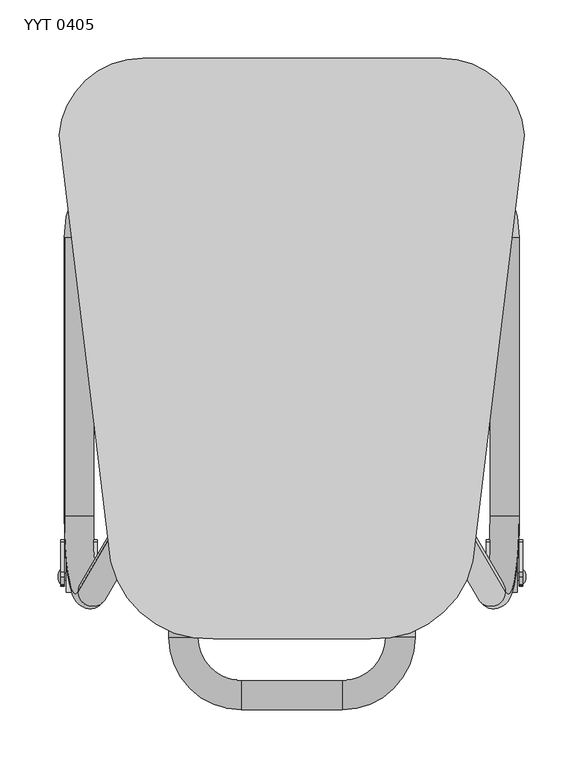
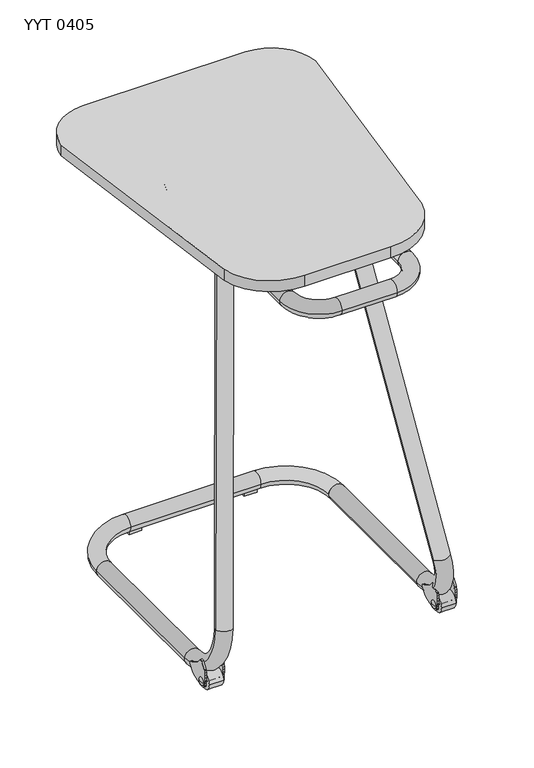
"""IFC4 building model written with IfcOpenShell, lengths in millimetres: furniture geometry, Mobiliário_Mobiliário de Escritório_LinhaYoung_Mesa Yes Tubular - YYT 0405_Marelli : YYT 0405."""

from ifc_helpers import new_model, si_unit, point, frame, frame_2d, origin, origin_with_axes, place, context, project, spatial, polyline, circle_curve, ellipse_curve, trimmed, segment, composite_curve, outline, extrude, source, transform, mapped, element, save
from ifc_brep_helpers import plane_surface, cylinder_surface, revolved_surface, advanced_brep


def yyt_0405_1cd9c240(model_context):
    return source(origin(), model_context, "Body", "SolidModel", [
        extrude(outline(composite_curve([segment(trimmed(circle_curve(frame_2d((328.4823851, 427.9938752)), 72.0061127), [point((328.4823851, 499.9999879))], [point((400.2446487, 433.9148377))], False, "CARTESIAN"), True, "CONTINUOUS"), segment(trimmed(circle_curve(frame_2d((-1390.7282575, 464.2728844)), 1791.230181), [point((400.2446487, 433.9148377))], [point((355.8346144, 66.7509401))], False, "CARTESIAN"), True, "CONTINUOUS"), segment(trimmed(circle_curve(frame_2d((272.0427054, 85.8221818)), 85.9348374), [point((355.8346144, 66.7509401))], [point((267.6439112, 0.0))], False, "CARTESIAN"), True, "CONTINUOUS"), segment(polyline([(267.6439112, 0.0), (132.3560888, 0.0)]), True, "CONTINUOUS"), segment(trimmed(circle_curve(frame_2d((127.9572946, 85.8221818)), 85.9348374), [point((132.3560888, 0.0))], [point((44.1653856, 66.7509401))], False, "CARTESIAN"), True, "CONTINUOUS"), segment(trimmed(circle_curve(frame_2d((1790.7282575, 464.2728844)), 1791.230181), [point((44.1653856, 66.7509401))], [point((-0.2446487, 433.9148377))], False, "CARTESIAN"), True, "CONTINUOUS"), segment(trimmed(circle_curve(frame_2d((71.5176149, 427.9938752)), 72.0061127), [point((-0.2446487, 433.9148377))], [point((71.5176149, 499.9999879))], False, "CARTESIAN"), True, "CONTINUOUS"), segment(polyline([(71.5176149, 499.9999879), (328.4823851, 499.9999879)]), True, "CONTINUOUS")], self_intersect=False)), frame((0.0, 0.0, 658.0), z_axis=(0.0, 0.0, 1.0), x_axis=(1.0, 0.0, 0.0)), (0.0, 0.0, 1.0), 18.0),
        advanced_brep(
        [(93.936914, 301.1242788, 645.0810303), (157.0368294, 364.2241942, 645.0810303), (157.0368294, 339.0241942, 645.0810303), (119.136914, 301.1242788, 645.0810303), (119.136914, 1.6249091, 645.0810303), (93.936914, 1.6249091, 645.0810303), (156.5368417, -60.9750186, 645.0810303), (156.5368417, -35.7750186, 645.0810303), (243.4631583, -35.7750186, 645.0810303), (243.4631583, -60.9750186, 645.0810303), (306.063086, 1.6249091, 645.0810303), (280.863086, 1.6249091, 645.0810303), (280.863086, 301.1242788, 645.0810303), (306.063086, 301.1242788, 645.0810303), (242.9631706, 364.2241942, 645.0810303), (242.9631706, 339.0241942, 645.0810303)],
        [
            (0, 1, circle_curve(frame((157.0368294, 301.1242788, 645.0810303), z_axis=(0.0, 0.0, -1.0), x_axis=(0.0, 1.0, 0.0)), 63.0999154)),
            (1, 2, circle_curve(frame((157.0368294, 351.6241942, 645.0810303), z_axis=(-1.0, 0.0, 0.0), x_axis=(0.0, 1.0, 0.0)), 12.6)),
            (2, 3, circle_curve(frame((157.0368294, 301.1242788, 645.0810303), z_axis=(0.0, 0.0, 1.0), x_axis=(0.0, 1.0, 0.0)), 37.8999154)),
            (3, 0, circle_curve(frame((106.536914, 301.1242788, 645.0810303), z_axis=(0.0, 1.0, 0.0), x_axis=(-1.0, 0.0, 0.0)), 12.6)),
            (2, 1, circle_curve(frame((157.0368294, 351.6241942, 645.0810303), z_axis=(-1.0, 0.0, 0.0), x_axis=(0.0, 1.0, 0.0)), 12.6)),
            (0, 3, circle_curve(frame((106.536914, 301.1242788, 645.0810303), z_axis=(0.0, 1.0, 0.0), x_axis=(-1.0, 0.0, 0.0)), 12.6)),
            (3, 4),
            (4, 5, circle_curve(frame((106.536914, 1.6249091, 645.0810303), z_axis=(0.0, 1.0, 0.0), x_axis=(-1.0, 0.0, 0.0)), 12.6)),
            (5, 0),
            (5, 4, circle_curve(frame((106.536914, 1.6249091, 645.0810303), z_axis=(0.0, 1.0, 0.0), x_axis=(-1.0, 0.0, 0.0)), 12.6)),
            (6, 5, circle_curve(frame((156.5368417, 1.6249091, 645.0810303), z_axis=(0.0, 0.0, -1.0), x_axis=(-1.0, 0.0, 0.0)), 62.5999277)),
            (4, 7, circle_curve(frame((156.5368417, 1.6249091, 645.0810303), z_axis=(0.0, 0.0, 1.0), x_axis=(-1.0, 0.0, 0.0)), 37.3999277)),
            (7, 6, circle_curve(frame((156.5368417, -48.3750186, 645.0810303), z_axis=(-1.0, 0.0, 0.0), x_axis=(0.0, -1.0, 0.0)), 12.6)),
            (6, 7, circle_curve(frame((156.5368417, -48.3750186, 645.0810303), z_axis=(-1.0, 0.0, 0.0), x_axis=(0.0, -1.0, 0.0)), 12.6)),
            (7, 8),
            (8, 9, circle_curve(frame((243.4631583, -48.3750186, 645.0810303), z_axis=(-1.0, 0.0, 0.0), x_axis=(0.0, -1.0, 0.0)), 12.6)),
            (9, 6),
            (9, 8, circle_curve(frame((243.4631583, -48.3750186, 645.0810303), z_axis=(-1.0, 0.0, 0.0), x_axis=(0.0, -1.0, 0.0)), 12.6)),
            (10, 9, circle_curve(frame((243.4631583, 1.6249091, 645.0810303), z_axis=(0.0, 0.0, -1.0), x_axis=(0.0, -1.0, 0.0)), 62.5999277)),
            (8, 11, circle_curve(frame((243.4631583, 1.6249091, 645.0810303), z_axis=(0.0, 0.0, 1.0), x_axis=(0.0, -1.0, 0.0)), 37.3999277)),
            (11, 10, circle_curve(frame((293.463086, 1.6249091, 645.0810303), z_axis=(0.0, -1.0, 0.0), x_axis=(1.0, 0.0, 0.0)), 12.6)),
            (10, 11, circle_curve(frame((293.463086, 1.6249091, 645.0810303), z_axis=(0.0, -1.0, 0.0), x_axis=(1.0, 0.0, 0.0)), 12.6)),
            (11, 12),
            (12, 13, circle_curve(frame((293.463086, 301.1242788, 645.0810303), z_axis=(0.0, -1.0, 0.0), x_axis=(1.0, 0.0, 0.0)), 12.6)),
            (13, 10),
            (13, 12, circle_curve(frame((293.463086, 301.1242788, 645.0810303), z_axis=(0.0, -1.0, 0.0), x_axis=(1.0, 0.0, 0.0)), 12.6)),
            (14, 13, circle_curve(frame((242.9631706, 301.1242788, 645.0810303), z_axis=(0.0, 0.0, -1.0), x_axis=(1.0, 0.0, 0.0)), 63.0999154)),
            (12, 15, circle_curve(frame((242.9631706, 301.1242788, 645.0810303), z_axis=(0.0, 0.0, 1.0), x_axis=(1.0, 0.0, 0.0)), 37.8999154)),
            (15, 14, circle_curve(frame((242.9631706, 351.6241942, 645.0810303), z_axis=(1.0, 0.0, 0.0), x_axis=(0.0, 1.0, 0.0)), 12.6)),
            (14, 15, circle_curve(frame((242.9631706, 351.6241942, 645.0810303), z_axis=(1.0, 0.0, 0.0), x_axis=(0.0, 1.0, 0.0)), 12.6)),
            (15, 2),
            (1, 14),
        ],
        [
            revolved_surface(trimmed(ellipse_curve(frame((157.0368294, 351.6241942, 645.0810303), z_axis=(1.0, 0.0, 0.0), x_axis=(0.0, 1.0, 0.0)), 12.6, 12.6), [point((157.0368294, 339.0241942, 645.0810303))], [point((157.0368294, 364.2241942, 645.0810303))], True, "CARTESIAN"), (157.0368294, 301.1242788, 0.0), (0.0, 0.0, 1.0)),
            revolved_surface(trimmed(ellipse_curve(frame((157.0368294, 351.6241942, 645.0810303), z_axis=(1.0, 0.0, 0.0), x_axis=(0.0, 1.0, 0.0)), 12.6, 12.6), [point((157.0368294, 364.2241942, 645.0810303))], [point((157.0368294, 339.0241942, 645.0810303))], True, "CARTESIAN"), (157.0368294, 301.1242788, 0.0), (0.0, 0.0, 1.0)),
            cylinder_surface(frame((106.536914, 301.1242788, 645.0810303), z_axis=(0.0, 1.0, 0.0), x_axis=(-1.0, 0.0, 0.0)), 12.6),
            revolved_surface(trimmed(ellipse_curve(frame((106.536914, 1.6249091, 645.0810303), z_axis=(0.0, 1.0, 0.0), x_axis=(-1.0, 0.0, 0.0)), 12.6, 12.6), [point((119.136914, 1.6249091, 645.0810303))], [point((93.936914, 1.6249091, 645.0810303))], True, "CARTESIAN"), (156.5368417, 1.6249091, 0.0), (0.0, 0.0, 1.0)),
            revolved_surface(trimmed(ellipse_curve(frame((106.536914, 1.6249091, 645.0810303), z_axis=(0.0, 1.0, 0.0), x_axis=(-1.0, 0.0, 0.0)), 12.6, 12.6), [point((93.936914, 1.6249091, 645.0810303))], [point((119.136914, 1.6249091, 645.0810303))], True, "CARTESIAN"), (156.5368417, 1.6249091, 0.0), (0.0, 0.0, 1.0)),
            cylinder_surface(frame((156.5368417, -48.3750186, 645.0810303), z_axis=(-1.0, 0.0, 0.0), x_axis=(0.0, -1.0, 0.0)), 12.6),
            revolved_surface(trimmed(ellipse_curve(frame((243.4631583, -48.3750186, 645.0810303), z_axis=(-1.0, 0.0, 0.0), x_axis=(0.0, -1.0, 0.0)), 12.6, 12.6), [point((243.4631583, -35.7750186, 645.0810303))], [point((243.4631583, -60.9750186, 645.0810303))], True, "CARTESIAN"), (243.4631583, 1.6249091, 0.0), (0.0, 0.0, 1.0)),
            revolved_surface(trimmed(ellipse_curve(frame((243.4631583, -48.3750186, 645.0810303), z_axis=(-1.0, 0.0, 0.0), x_axis=(0.0, -1.0, 0.0)), 12.6, 12.6), [point((243.4631583, -60.9750186, 645.0810303))], [point((243.4631583, -35.7750186, 645.0810303))], True, "CARTESIAN"), (243.4631583, 1.6249091, 0.0), (0.0, 0.0, 1.0)),
            cylinder_surface(frame((293.463086, 1.6249091, 645.0810303), z_axis=(0.0, -1.0, 0.0), x_axis=(1.0, 0.0, 0.0)), 12.6),
            revolved_surface(trimmed(ellipse_curve(frame((293.463086, 301.1242788, 645.0810303), z_axis=(0.0, -1.0, 0.0), x_axis=(1.0, 0.0, 0.0)), 12.6, 12.6), [point((280.863086, 301.1242788, 645.0810303))], [point((306.063086, 301.1242788, 645.0810303))], True, "CARTESIAN"), (242.9631706, 301.1242788, 0.0), (0.0, 0.0, 1.0)),
            revolved_surface(trimmed(ellipse_curve(frame((293.463086, 301.1242788, 645.0810303), z_axis=(0.0, -1.0, 0.0), x_axis=(1.0, 0.0, 0.0)), 12.6, 12.6), [point((306.063086, 301.1242788, 645.0810303))], [point((280.863086, 301.1242788, 645.0810303))], True, "CARTESIAN"), (242.9631706, 301.1242788, 0.0), (0.0, 0.0, 1.0)),
            cylinder_surface(frame((242.9631706, 351.6241942, 645.0810303), z_axis=(1.0, 0.0, 0.0), x_axis=(0.0, 1.0, 0.0)), 12.6),
        ],
        [
            (0, [[1, 2, 3, 4]]),
            (1, [[-3, 5, -1, 6]]),
            (2, [[-4, 7, 8, 9]]),
            (2, [[-6, -9, 10, -7]]),
            (3, [[11, -8, 12, 13]]),
            (4, [[-12, -10, -11, 14]]),
            (5, [[-13, 15, 16, 17]]),
            (5, [[-14, -17, 18, -15]]),
            (6, [[19, -16, 20, 21]]),
            (7, [[-20, -18, -19, 22]]),
            (8, [[-21, 23, 24, 25]]),
            (8, [[-22, -25, 26, -23]]),
            (9, [[27, -24, 28, 29]]),
            (10, [[-28, -26, -27, 30]]),
            (11, [[-29, 31, -2, 32]]),
            (11, [[-30, -32, -5, -31]]),
        ],
    ),
        advanced_brep(
        [(359.2255328, 40.3187599, 97.7687836), (370.7388864, 105.6689254, 15.8470156), (395.6936417, 105.6689254, 19.3541778), (384.1802881, 40.3187599, 101.2759457), (283.4059456, 169.9643449, 637.2531786), (308.3607009, 169.9643449, 640.7603407), (370.7388864, 345.6689254, 15.8470156), (395.6936417, 345.6689254, 19.3541778)],
        [
            (0, 1, circle_curve(frame((361.3899133, 105.6689254, 82.3684159), z_axis=(0.9902680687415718, 0.0, 0.13917310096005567), x_axis=(0.13917310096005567, 0.0, -0.9902680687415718)), 67.1751442)),
            (1, 2, circle_curve(frame((383.2162641, 105.6689254, 17.6005967), z_axis=(0.0, -1.0000000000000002, 0.0), x_axis=(0.9902680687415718, 0.0, 0.13917310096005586)), 12.6)),
            (2, 3, circle_curve(frame((386.3446686, 105.6689254, 85.8755781), z_axis=(-0.9902680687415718, 0.0, -0.13917310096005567), x_axis=(0.13917310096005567, 0.0, -0.9902680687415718)), 67.1751442)),
            (3, 0, circle_curve(frame((371.7029104, 40.3187599, 99.5223646), z_axis=(0.1353921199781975, -0.23150997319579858, -0.963364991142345), x_axis=(0.9902680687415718, 0.0, 0.13917310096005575)), 12.6)),
            (2, 1, circle_curve(frame((383.2162641, 105.6689254, 17.6005967), z_axis=(0.0, -1.0000000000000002, 0.0), x_axis=(0.9902680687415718, 0.0, 0.13917310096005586)), 12.6)),
            (0, 3, circle_curve(frame((371.7029104, 40.3187599, 99.5223646), z_axis=(0.13539211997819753, -0.23150997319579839, -0.9633649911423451), x_axis=(0.9902680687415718, 0.0, 0.13917310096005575)), 12.6)),
            (4, 5, circle_curve(frame((295.8833232, 169.9643449, 639.0067597), z_axis=(-0.1353921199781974, 0.23150997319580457, 0.9633649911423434), x_axis=(0.9902680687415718, 0.0, 0.13917310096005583)), 12.6)),
            (5, 4, circle_curve(frame((295.8833232, 169.9643449, 639.0067597), z_axis=(-0.1353921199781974, 0.23150997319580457, 0.9633649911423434), x_axis=(0.9902680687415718, 0.0, 0.13917310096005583)), 12.6)),
            (0, 4),
            (5, 3),
            (6, 7, circle_curve(frame((383.2162641, 345.6689254, 17.6005967), z_axis=(0.0, 1.0, 0.0), x_axis=(0.9902680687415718, 0.0, 0.13917310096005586)), 12.6)),
            (7, 6, circle_curve(frame((383.2162641, 345.6689254, 17.6005967), z_axis=(0.0, 1.0, 0.0), x_axis=(0.9902680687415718, 0.0, 0.13917310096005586)), 12.6)),
            (6, 1),
            (2, 7),
        ],
        [
            revolved_surface(trimmed(ellipse_curve(frame((383.2162641, 105.6689254, 17.6005967), z_axis=(0.0, 1.0000000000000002, 0.0), x_axis=(0.9902680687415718, 0.0, 0.13917310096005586)), 12.6, 12.6), [point((395.6936417, 105.6689254, 19.3541778))], [point((370.7388864, 105.6689254, 15.8470156))], True, "CARTESIAN"), (390.3662597, 105.6689254, 86.4407759), (-0.9902680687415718, 0.0, -0.13917310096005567)),
            revolved_surface(trimmed(ellipse_curve(frame((383.2162641, 105.6689254, 17.6005967), z_axis=(0.0, 1.0000000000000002, 0.0), x_axis=(0.9902680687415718, 0.0, 0.13917310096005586)), 12.6, 12.6), [point((370.7388864, 105.6689254, 15.8470156))], [point((395.6936417, 105.6689254, 19.3541778))], True, "CARTESIAN"), (390.3662597, 105.6689254, 86.4407759), (-0.9902680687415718, 0.0, -0.13917310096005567)),
            plane_surface(frame((312.382292, 169.9643449, 641.3255385), z_axis=(-0.1353921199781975, 0.23150997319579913, 0.9633649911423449), x_axis=(-0.9902680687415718, 0.0, -0.1391731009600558))),
            cylinder_surface(frame((371.7029104, 40.3187599, 99.5223646), z_axis=(0.13539211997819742, -0.23150997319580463, -0.9633649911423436), x_axis=(0.9902680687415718, 0.0, 0.13917310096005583)), 12.6),
            plane_surface(frame((399.7152329, 345.6689254, 19.9193755), z_axis=(0.0, 1.0, 0.0), x_axis=(-0.9902680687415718, 0.0, -0.13917310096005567))),
            cylinder_surface(frame((383.2162641, 345.6689254, 17.6005967), z_axis=(0.0, 1.0, 0.0), x_axis=(0.9902680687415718, 0.0, 0.13917310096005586)), 12.6),
        ],
        [
            (0, [[1, 2, 3, 4]]),
            (1, [[-3, 5, -1, 6]]),
            (2, [[7, 8]]),
            (3, [[-6, 9, -8, 10]]),
            (3, [[-4, -10, -7, -9]]),
            (4, [[11, 12]]),
            (5, [[-11, 13, -5, 14]]),
            (5, [[-12, -14, -2, -13]]),
        ],
    ),
        advanced_brep(
        [(15.8197119, 40.3187599, 101.2759457), (4.3063583, 105.6689254, 19.3541778), (29.2611136, 105.6689254, 15.8470156), (40.7744672, 40.3187599, 97.7687836), (116.5940544, 169.9643449, 637.2531786), (91.6392991, 169.9643449, 640.7603407), (29.2611136, 345.6689254, 15.8470156), (4.3063583, 345.6689254, 19.3541778)],
        [
            (0, 1, circle_curve(frame((13.6553314, 105.6689254, 85.8755781), z_axis=(0.9902680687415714, 0.0, -0.13917310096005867), x_axis=(-0.13917310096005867, 0.0, -0.9902680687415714)), 67.1751442)),
            (1, 2, circle_curve(frame((16.7837359, 105.6689254, 17.6005967), z_axis=(0.0, -1.0000000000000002, 0.0), x_axis=(-0.9902680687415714, 0.0, 0.13917310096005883)), 12.6)),
            (2, 3, circle_curve(frame((38.6100867, 105.6689254, 82.3684159), z_axis=(-0.9902680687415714, 0.0, 0.13917310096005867), x_axis=(-0.13917310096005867, 0.0, -0.9902680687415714)), 67.1751442)),
            (3, 0, circle_curve(frame((28.2970896, 40.3187599, 99.5223646), z_axis=(-0.13539211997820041, -0.2315099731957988, -0.9633649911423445), x_axis=(-0.9902680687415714, 0.0, 0.13917310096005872)), 12.6)),
            (2, 1, circle_curve(frame((16.7837359, 105.6689254, 17.6005967), z_axis=(0.0, -1.0000000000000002, 0.0), x_axis=(-0.9902680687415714, 0.0, 0.13917310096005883)), 12.6)),
            (0, 3, circle_curve(frame((28.2970896, 40.3187599, 99.5223646), z_axis=(-0.13539211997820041, -0.2315099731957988, -0.9633649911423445), x_axis=(-0.9902680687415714, 0.0, 0.13917310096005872)), 12.6)),
            (4, 5, circle_curve(frame((104.1166768, 169.9643449, 639.0067597), z_axis=(0.13539211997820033, 0.23150997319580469, 0.9633649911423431), x_axis=(-0.9902680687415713, 0.0, 0.13917310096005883)), 12.6)),
            (5, 4, circle_curve(frame((104.1166768, 169.9643449, 639.0067597), z_axis=(0.13539211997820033, 0.23150997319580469, 0.9633649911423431), x_axis=(-0.9902680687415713, 0.0, 0.13917310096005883)), 12.6)),
            (0, 5),
            (4, 3),
            (6, 7, circle_curve(frame((16.7837359, 345.6689254, 17.6005967), z_axis=(0.0, 1.0, 0.0), x_axis=(-0.9902680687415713, 0.0, 0.1391731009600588)), 12.6)),
            (7, 6, circle_curve(frame((16.7837359, 345.6689254, 17.6005967), z_axis=(0.0, 1.0, 0.0), x_axis=(-0.9902680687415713, 0.0, 0.1391731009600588)), 12.6)),
            (7, 1),
            (2, 6),
        ],
        [
            revolved_surface(trimmed(ellipse_curve(frame((16.7837359, 105.6689254, 17.6005967), z_axis=(0.0, 1.0000000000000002, 0.0), x_axis=(-0.9902680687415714, 0.0, 0.13917310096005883)), 12.6, 12.6), [point((29.2611136, 105.6689254, 15.8470156))], [point((4.3063583, 105.6689254, 19.3541778))], True, "CARTESIAN"), (9.6337403, 105.6689254, 86.4407759), (-0.9902680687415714, 0.0, 0.13917310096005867)),
            revolved_surface(trimmed(ellipse_curve(frame((16.7837359, 105.6689254, 17.6005967), z_axis=(0.0, 1.0000000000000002, 0.0), x_axis=(-0.9902680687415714, 0.0, 0.13917310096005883)), 12.6, 12.6), [point((4.3063583, 105.6689254, 19.3541778))], [point((29.2611136, 105.6689254, 15.8470156))], True, "CARTESIAN"), (9.6337403, 105.6689254, 86.4407759), (-0.9902680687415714, 0.0, 0.13917310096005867)),
            plane_surface(frame((87.617708, 169.9643449, 641.3255385), z_axis=(0.1353921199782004, 0.23150997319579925, 0.9633649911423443), x_axis=(0.9902680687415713, 0.0, -0.13917310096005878))),
            cylinder_surface(frame((28.2970896, 40.3187599, 99.5223646), z_axis=(-0.1353921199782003, -0.23150997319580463, -0.9633649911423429), x_axis=(-0.9902680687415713, 0.0, 0.13917310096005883)), 12.6),
            plane_surface(frame((0.2847671, 345.6689254, 19.9193755), z_axis=(0.0, 1.0, 0.0), x_axis=(0.9902680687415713, 0.0, -0.13917310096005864))),
            cylinder_surface(frame((16.7837359, 345.6689254, 17.6005967), z_axis=(0.0, 1.0000000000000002, 0.0), x_axis=(-0.9902680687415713, 0.0, 0.1391731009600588)), 12.6),
        ],
        [
            (0, [[1, 2, 3, 4]]),
            (1, [[-3, 5, -1, 6]]),
            (2, [[7, 8]]),
            (3, [[-6, 9, -7, 10]]),
            (3, [[-4, -10, -8, -9]]),
            (4, [[11, 12]]),
            (5, [[-12, 13, -5, 14]]),
            (5, [[-11, -14, -2, -13]]),
        ],
    ),
        advanced_brep(
        [(370.616254, 345.6689254, 17.6), (395.816254, 345.6689254, 17.6), (303.0462353, 438.4389441, 17.6), (303.0462353, 413.2389441, 17.6), (29.3837258, 345.6689254, 17.6), (4.1837258, 345.6689254, 17.6), (96.9537445, 438.4389441, 17.6), (96.9537445, 413.2389441, 17.6)],
        [
            (0, 1, circle_curve(frame((383.216254, 345.6689254, 17.6), z_axis=(0.0, -1.0, 0.0), x_axis=(1.0, 0.0, 0.0)), 12.6)),
            (1, 0, circle_curve(frame((383.216254, 345.6689254, 17.6), z_axis=(0.0, -1.0, 0.0), x_axis=(1.0, 0.0, 0.0)), 12.6)),
            (2, 1, circle_curve(frame((303.0462353, 345.6689254, 17.6), z_axis=(0.0, 0.0, -1.0), x_axis=(1.0, 0.0, 0.0)), 92.7700187)),
            (0, 3, circle_curve(frame((303.0462353, 345.6689254, 17.6), z_axis=(0.0, 0.0, 1.0), x_axis=(1.0, 0.0, 0.0)), 67.5700187)),
            (3, 2, circle_curve(frame((303.0462353, 425.8389441, 17.6), z_axis=(1.0, 0.0, 0.0), x_axis=(0.0, 1.0, 0.0)), 12.6)),
            (2, 3, circle_curve(frame((303.0462353, 425.8389441, 17.6), z_axis=(1.0, 0.0, 0.0), x_axis=(0.0, 1.0, 0.0)), 12.6)),
            (4, 5, circle_curve(frame((16.7837258, 345.6689254, 17.6), z_axis=(0.0, -1.0, 0.0), x_axis=(-1.0, 0.0, 0.0)), 12.6)),
            (5, 4, circle_curve(frame((16.7837258, 345.6689254, 17.6), z_axis=(0.0, -1.0, 0.0), x_axis=(-1.0, 0.0, 0.0)), 12.6)),
            (5, 6, circle_curve(frame((96.9537445, 345.6689254, 17.6), z_axis=(0.0, 0.0, -1.0), x_axis=(0.0, 1.0, 0.0)), 92.7700187)),
            (6, 7, circle_curve(frame((96.9537445, 425.8389441, 17.6), z_axis=(-1.0, 0.0, 0.0), x_axis=(0.0, 1.0, 0.0)), 12.6)),
            (7, 4, circle_curve(frame((96.9537445, 345.6689254, 17.6), z_axis=(0.0, 0.0, 1.0), x_axis=(0.0, 1.0, 0.0)), 67.5700187)),
            (7, 6, circle_curve(frame((96.9537445, 425.8389441, 17.6), z_axis=(-1.0, 0.0, 0.0), x_axis=(0.0, 1.0, 0.0)), 12.6)),
            (3, 7),
            (6, 2),
        ],
        [
            plane_surface(frame((383.216254, 345.6689254, 0.0), z_axis=(0.0, -1.0, 0.0), x_axis=(0.0, 0.0, 1.0))),
            revolved_surface(trimmed(ellipse_curve(frame((383.216254, 345.6689254, 17.6), z_axis=(0.0, -1.0, 0.0), x_axis=(1.0, 0.0, 0.0)), 12.6, 12.6), [point((370.616254, 345.6689254, 17.6))], [point((395.816254, 345.6689254, 17.6))], True, "CARTESIAN"), (303.0462353, 345.6689254, 0.0), (0.0, 0.0, 1.0)),
            revolved_surface(trimmed(ellipse_curve(frame((383.216254, 345.6689254, 17.6), z_axis=(0.0, -1.0, 0.0), x_axis=(1.0, 0.0, 0.0)), 12.6, 12.6), [point((395.816254, 345.6689254, 17.6))], [point((370.616254, 345.6689254, 17.6))], True, "CARTESIAN"), (303.0462353, 345.6689254, 0.0), (0.0, 0.0, 1.0)),
            plane_surface(frame((16.7837258, 345.6689254, 0.0), z_axis=(0.0, -1.0, 0.0), x_axis=(0.0, 0.0, 1.0))),
            revolved_surface(trimmed(ellipse_curve(frame((96.9537445, 425.8389441, 17.6), z_axis=(1.0, 0.0, 0.0), x_axis=(0.0, 1.0, 0.0)), 12.6, 12.6), [point((96.9537445, 413.2389441, 17.6))], [point((96.9537445, 438.4389441, 17.6))], True, "CARTESIAN"), (96.9537445, 345.6689254, 0.0), (0.0, 0.0, 1.0)),
            revolved_surface(trimmed(ellipse_curve(frame((96.9537445, 425.8389441, 17.6), z_axis=(1.0, 0.0, 0.0), x_axis=(0.0, 1.0, 0.0)), 12.6, 12.6), [point((96.9537445, 438.4389441, 17.6))], [point((96.9537445, 413.2389441, 17.6))], True, "CARTESIAN"), (96.9537445, 345.6689254, 0.0), (0.0, 0.0, 1.0)),
            cylinder_surface(frame((303.0462353, 425.8389441, 17.6), z_axis=(1.0, 0.0, 0.0), x_axis=(0.0, 1.0, 0.0)), 12.6),
        ],
        [
            (0, [[1, 2]]),
            (1, [[3, -1, 4, 5]]),
            (2, [[-4, -2, -3, 6]]),
            (3, [[7, 8]]),
            (4, [[9, 10, 11, -8]]),
            (5, [[-11, 12, -9, -7]]),
            (6, [[-5, 13, -10, 14]]),
            (6, [[-6, -14, -12, -13]]),
        ],
    ),
        extrude(outline(polyline([(119.2496093, 431.6201185), (119.2496093, 421.6201185), (99.2496093, 421.6201185), (99.2496093, 431.6201185), (119.2496093, 431.6201185)])), origin_with_axes(), (0.0, 0.0, 1.0), 5.0),
        extrude(outline(polyline([(280.7503907, 431.6201185), (300.7503907, 431.6201185), (300.7503907, 421.6201185), (280.7503907, 421.6201185), (280.7503907, 431.6201185)])), origin_with_axes(), (0.0, 0.0, 1.0), 5.0),
        extrude(outline(composite_curve([segment(polyline([(46.7100084, 36.6299524), (53.6701941, 46.2089916)]), True, "CONTINUOUS"), segment(trimmed(circle_curve(frame_2d((55.8336101, 44.637041)), 2.6742097), [point((53.6701941, 46.2089916))], [point((57.9970261, 46.2089916))], False, "CARTESIAN"), True, "CONTINUOUS"), segment(trimmed(circle_curve(frame_2d((97.857083, 75.1715409)), 49.2712229), [point((57.9970261, 46.2089916))], [point((83.8527654, 27.9324418))], True, "CARTESIAN"), True, "CONTINUOUS"), segment(trimmed(circle_curve(frame_2d((83.0197694, 25.3912776)), 2.6742097), [point((83.8527654, 27.9324418))], [point((85.1792809, 23.8139673))], False, "CARTESIAN"), True, "CONTINUOUS"), segment(polyline([(85.1792809, 23.8139673), (77.4017034, 13.1378419), (75.8354836, 11.9691882), (72.9773005, 10.6873033), (69.2113603, 9.364017), (64.9218692, 8.0711442), (60.4931424, 6.8805113), (56.3093862, 5.8639365), (52.7548793, 5.0932475), (51.4907486, 5.0159766), (50.2319955, 5.2574272), (49.0430419, 5.7785754), (47.9884551, 6.5403953), (47.1326934, 7.5038641), (46.5402514, 8.6299548), (46.2756599, 9.8796491), (46.0511824, 13.7106437), (45.8278675, 18.1859361), (45.662289, 22.9170472), (45.6110566, 27.5154879), (45.7308894, 31.5927735), (46.0783246, 34.7604263), (46.7100084, 36.6299524)]), True, "CONTINUOUS")], self_intersect=False)), frame((1.2, 0.0, 0.0), z_axis=(1.0, 0.0, 0.0), x_axis=(0.0, 1.0, 0.0)), (0.0, 0.0, 1.0), 3.0421416),
        extrude(outline(composite_curve([segment(polyline([(46.7100084, 36.6299524), (53.6701941, 46.2089916)]), True, "CONTINUOUS"), segment(trimmed(circle_curve(frame_2d((55.8336101, 44.637041)), 2.6742097), [point((53.6701941, 46.2089916))], [point((57.9970261, 46.2089916))], False, "CARTESIAN"), True, "CONTINUOUS"), segment(trimmed(circle_curve(frame_2d((97.857083, 75.1715409)), 49.2712229), [point((57.9970261, 46.2089916))], [point((83.8527654, 27.9324418))], True, "CARTESIAN"), True, "CONTINUOUS"), segment(trimmed(circle_curve(frame_2d((83.0197694, 25.3912776)), 2.6742097), [point((83.8527654, 27.9324418))], [point((85.1792809, 23.8139673))], False, "CARTESIAN"), True, "CONTINUOUS"), segment(polyline([(85.1792809, 23.8139673), (77.4017034, 13.1378419), (75.8354836, 11.9691882), (72.9773005, 10.6873033), (69.2113603, 9.364017), (64.9218692, 8.0711442), (60.4931424, 6.8805113), (56.3093862, 5.8639365), (52.7548793, 5.0932475), (51.4907486, 5.0159766), (50.2319955, 5.2574272), (49.0430419, 5.7785754), (47.9884551, 6.5403953), (47.1326934, 7.5038641), (46.5402514, 8.6299548), (46.2756599, 9.8796491), (46.0511824, 13.7106437), (45.8278675, 18.1859361), (45.662289, 22.9170472), (45.6110566, 27.5154879), (45.7308894, 31.5927735), (46.0783246, 34.7604263), (46.7100084, 36.6299524)]), True, "CONTINUOUS")], self_intersect=False)), frame((395.7578584, 0.0, 0.0), z_axis=(1.0, 0.0, 0.0), x_axis=(0.0, 1.0, 0.0)), (0.0, 0.0, 1.0), 3.0421416),
        extrude(outline(composite_curve([segment(polyline([(46.7100084, 36.6299524), (53.6701941, 46.2089916)]), True, "CONTINUOUS"), segment(trimmed(circle_curve(frame_2d((55.8336101, 44.637041)), 2.6742097), [point((53.6701941, 46.2089916))], [point((57.9970261, 46.2089916))], False, "CARTESIAN"), True, "CONTINUOUS"), segment(trimmed(circle_curve(frame_2d((97.857083, 75.1715409)), 49.2712229), [point((57.9970261, 46.2089916))], [point((83.8527654, 27.9324418))], True, "CARTESIAN"), True, "CONTINUOUS"), segment(trimmed(circle_curve(frame_2d((83.0197694, 25.3912776)), 2.6742097), [point((83.8527654, 27.9324418))], [point((85.1792809, 23.8139673))], False, "CARTESIAN"), True, "CONTINUOUS"), segment(polyline([(85.1792809, 23.8139673), (77.4017034, 13.1378419), (75.8354836, 11.9691882), (72.9773005, 10.6873033), (69.2113603, 9.364017), (64.9218692, 8.0711442), (60.4931424, 6.8805113), (56.3093862, 5.8639365), (52.7548793, 5.0932475), (51.4907486, 5.0159766), (50.2319955, 5.2574272), (49.0430419, 5.7785754), (47.9884551, 6.5403953), (47.1326934, 7.5038641), (46.5402514, 8.6299548), (46.2756599, 9.8796491), (46.0511824, 13.7106437), (45.8278675, 18.1859361), (45.662289, 22.9170472), (45.6110566, 27.5154879), (45.7308894, 31.5927735), (46.0783246, 34.7604263), (46.7100084, 36.6299524)]), True, "CONTINUOUS")], self_intersect=False)), frame((367.5099058, 0.0, 0.0), z_axis=(1.0, 0.0, 0.0), x_axis=(0.0, 1.0, 0.0)), (0.0, 0.0, 1.0), 3.0421416),
        extrude(outline(composite_curve([segment(polyline([(46.7100084, 36.6299524), (53.6701941, 46.2089916)]), True, "CONTINUOUS"), segment(trimmed(circle_curve(frame_2d((55.8336101, 44.637041)), 2.6742097), [point((53.6701941, 46.2089916))], [point((57.9970261, 46.2089916))], False, "CARTESIAN"), True, "CONTINUOUS"), segment(trimmed(circle_curve(frame_2d((97.857083, 75.1715409)), 49.2712229), [point((57.9970261, 46.2089916))], [point((83.8527654, 27.9324418))], True, "CARTESIAN"), True, "CONTINUOUS"), segment(trimmed(circle_curve(frame_2d((83.0197694, 25.3912776)), 2.6742097), [point((83.8527654, 27.9324418))], [point((85.1792809, 23.8139673))], False, "CARTESIAN"), True, "CONTINUOUS"), segment(polyline([(85.1792809, 23.8139673), (77.4017034, 13.1378419), (75.8354836, 11.9691882), (72.9773005, 10.6873033), (69.2113603, 9.364017), (64.9218692, 8.0711442), (60.4931424, 6.8805113), (56.3093862, 5.8639365), (52.7548793, 5.0932475), (51.4907486, 5.0159766), (50.2319955, 5.2574272), (49.0430419, 5.7785754), (47.9884551, 6.5403953), (47.1326934, 7.5038641), (46.5402514, 8.6299548), (46.2756599, 9.8796491), (46.0511824, 13.7106437), (45.8278675, 18.1859361), (45.662289, 22.9170472), (45.6110566, 27.5154879), (45.7308894, 31.5927735), (46.0783246, 34.7604263), (46.7100084, 36.6299524)]), True, "CONTINUOUS")], self_intersect=False)), frame((29.4479526, 0.0, 0.0), z_axis=(1.0, 0.0, 0.0), x_axis=(0.0, 1.0, 0.0)), (0.0, 0.0, 1.0), 3.0421416),
        extrude(outline(composite_curve([segment(trimmed(circle_curve(frame_2d((53.648175, 13.367587)), 13.367587), [point((67.015762, 13.367587))], [point((40.2805881, 13.367587))], False, "CARTESIAN"), True, "CONTINUOUS"), segment(trimmed(circle_curve(frame_2d((53.648175, 13.367587)), 13.367587), [point((40.2805881, 13.367587))], [point((67.015762, 13.367587))], False, "CARTESIAN"), True, "CONTINUOUS")], self_intersect=False)), frame((5.7648291, 0.0, 0.0), z_axis=(1.0, 0.0, 0.0), x_axis=(0.0, 1.0, 0.0)), (0.0, 0.0, 1.0), 22.160436),
        extrude(outline(composite_curve([segment(trimmed(circle_curve(frame_2d((53.648175, 13.367587)), 13.367587), [point((67.015762, 13.367587))], [point((40.2805881, 13.367587))], False, "CARTESIAN"), True, "CONTINUOUS"), segment(trimmed(circle_curve(frame_2d((53.648175, 13.367587)), 13.367587), [point((40.2805881, 13.367587))], [point((67.015762, 13.367587))], False, "CARTESIAN"), True, "CONTINUOUS")], self_intersect=False)), frame((372.0747349, 0.0, 0.0), z_axis=(1.0, 0.0, 0.0), x_axis=(0.0, 1.0, 0.0)), (0.0, 0.0, 1.0), 22.160436),
        advanced_brep(
        [(398.8, 53.648175, 13.367587), (398.8, 60.0552694, 13.367587), (398.8, 47.2410807, 13.367587), (401.2267777, 54.7369801, 13.367587), (401.2267777, 52.55937, 13.367587), (401.2267777, 53.648175, 13.367587)],
        [
            (0, 1),
            (1, 2, circle_curve(frame((398.8, 53.648175, 13.367587), z_axis=(-1.0, 0.0, 0.0), x_axis=(0.0, 1.0, 0.0)), 6.4070944)),
            (2, 0),
            (2, 1, circle_curve(frame((398.8, 53.648175, 13.367587), z_axis=(-1.0, 0.0, 0.0), x_axis=(0.0, 1.0, 0.0)), 6.4070944)),
            (1, 3, circle_curve(frame((394.1858668, 54.7369801, 13.367587), z_axis=(0.0, 0.0, -1.0), x_axis=(-1.0, 0.0, 0.0)), 7.0409109)),
            (3, 4, circle_curve(frame((401.2267777, 53.648175, 13.367587), z_axis=(-1.0, 0.0, 0.0), x_axis=(0.0, 1.0, 0.0)), 1.088805)),
            (4, 2, circle_curve(frame((394.1858668, 52.55937, 13.367587), z_axis=(0.0, 0.0, -1.0), x_axis=(-1.0, 0.0, 0.0)), 7.0409109)),
            (4, 3, circle_curve(frame((401.2267777, 53.648175, 13.367587), z_axis=(-1.0, 0.0, 0.0), x_axis=(0.0, 1.0, 0.0)), 1.088805)),
            (3, 5),
            (5, 4),
        ],
        [
            plane_surface(frame((398.8, 53.648175, 13.367587), z_axis=(-1.0, 0.0, 0.0), x_axis=(0.0, 1.0, 0.0))),
            revolved_surface(trimmed(ellipse_curve(frame((394.1858668, 54.7369801, 13.367587), z_axis=(0.0, 0.0, 1.0), x_axis=(-1.0, 0.0, 0.0)), 7.0409109, 7.0409109), [point((401.2267777, 54.7369801, 13.367587))], [point((398.8, 60.0552694, 13.367587))], True, "CARTESIAN"), (398.8, 53.648175, 13.367587), (-1.0, 0.0, 0.0)),
            plane_surface(frame((401.2267777, 53.648175, 13.367587), z_axis=(1.0, 0.0, 0.0), x_axis=(0.0, 1.0, 0.0))),
        ],
        [
            (0, [[1, 2, 3]]),
            (0, [[-3, 4, -1]]),
            (1, [[-2, 5, 6, 7]]),
            (1, [[-4, -7, 8, -5]]),
            (2, [[-6, 9, 10]]),
            (2, [[-8, -10, -9]]),
        ],
    ),
        advanced_brep(
        [(367.5099058, 47.2410807, 13.367587), (367.5099058, 60.0552694, 13.367587), (367.5099058, 53.648175, 13.367587), (365.0831281, 52.55937, 13.367587), (365.0831281, 54.7369801, 13.367587), (365.0831281, 53.648175, 13.367587)],
        [
            (0, 1, circle_curve(frame((367.5099058, 53.648175, 13.367587), z_axis=(1.0, 0.0, 0.0), x_axis=(0.0, 1.0, 0.0)), 6.4070944)),
            (1, 2),
            (2, 0),
            (1, 0, circle_curve(frame((367.5099058, 53.648175, 13.367587), z_axis=(1.0, 0.0, 0.0), x_axis=(0.0, 1.0, 0.0)), 6.4070944)),
            (3, 4, circle_curve(frame((365.0831281, 53.648175, 13.367587), z_axis=(1.0, 0.0, 0.0), x_axis=(0.0, 1.0, 0.0)), 1.088805)),
            (4, 1, circle_curve(frame((372.124039, 54.7369801, 13.367587), z_axis=(0.0, 0.0, -1.0), x_axis=(1.0, 0.0, 0.0)), 7.0409109)),
            (0, 3, circle_curve(frame((372.124039, 52.55937, 13.367587), z_axis=(0.0, 0.0, -1.0), x_axis=(1.0, 0.0, 0.0)), 7.0409109)),
            (4, 3, circle_curve(frame((365.0831281, 53.648175, 13.367587), z_axis=(1.0, 0.0, 0.0), x_axis=(0.0, 1.0, 0.0)), 1.088805)),
            (5, 4),
            (3, 5),
        ],
        [
            plane_surface(frame((367.5099058, 53.648175, 13.367587), z_axis=(1.0, 0.0, 0.0), x_axis=(0.0, 1.0, 0.0))),
            revolved_surface(trimmed(ellipse_curve(frame((372.124039, 54.7369801, 13.367587), z_axis=(0.0, 0.0, 1.0), x_axis=(1.0, 0.0, 0.0)), 7.0409109, 7.0409109), [point((367.5099058, 60.0552694, 13.367587))], [point((365.0831281, 54.7369801, 13.367587))], True, "CARTESIAN"), (367.5099058, 53.648175, 13.367587), (-1.0, 0.0, 0.0)),
            plane_surface(frame((365.0831281, 53.648175, 13.367587), z_axis=(-1.0, 0.0, 0.0), x_axis=(0.0, 1.0, 0.0))),
        ],
        [
            (0, [[1, 2, 3]]),
            (0, [[4, -3, -2]]),
            (1, [[5, 6, -1, 7]]),
            (1, [[8, -7, -4, -6]]),
            (2, [[9, -5, 10]]),
            (2, [[-10, -8, -9]]),
        ],
    ),
        advanced_brep(
        [(32.4900942, 53.648175, 13.367587), (32.4900942, 60.0552694, 13.367587), (32.4900942, 47.2410807, 13.367587), (34.9168719, 54.7369801, 13.367587), (34.9168719, 52.55937, 13.367587), (34.9168719, 53.648175, 13.367587)],
        [
            (0, 1),
            (1, 2, circle_curve(frame((32.4900942, 53.648175, 13.367587), z_axis=(-1.0, 0.0, 0.0), x_axis=(0.0, 1.0, 0.0)), 6.4070944)),
            (2, 0),
            (2, 1, circle_curve(frame((32.4900942, 53.648175, 13.367587), z_axis=(-1.0, 0.0, 0.0), x_axis=(0.0, 1.0, 0.0)), 6.4070944)),
            (1, 3, circle_curve(frame((27.875961, 54.7369801, 13.367587), z_axis=(0.0, 0.0, -1.0), x_axis=(-1.0, 0.0, 0.0)), 7.0409109)),
            (3, 4, circle_curve(frame((34.9168719, 53.648175, 13.367587), z_axis=(-1.0, 0.0, 0.0), x_axis=(0.0, 1.0, 0.0)), 1.088805)),
            (4, 2, circle_curve(frame((27.875961, 52.55937, 13.367587), z_axis=(0.0, 0.0, -1.0), x_axis=(-1.0, 0.0, 0.0)), 7.0409109)),
            (4, 3, circle_curve(frame((34.9168719, 53.648175, 13.367587), z_axis=(-1.0, 0.0, 0.0), x_axis=(0.0, 1.0, 0.0)), 1.088805)),
            (3, 5),
            (5, 4),
        ],
        [
            plane_surface(frame((32.4900942, 53.648175, 13.367587), z_axis=(-1.0, 0.0, 0.0), x_axis=(0.0, 1.0, 0.0))),
            revolved_surface(trimmed(ellipse_curve(frame((27.875961, 54.7369801, 13.367587), z_axis=(0.0, 0.0, 1.0), x_axis=(-1.0, 0.0, 0.0)), 7.0409109, 7.0409109), [point((34.9168719, 54.7369801, 13.367587))], [point((32.4900942, 60.0552694, 13.367587))], True, "CARTESIAN"), (32.4900942, 53.648175, 13.367587), (-1.0, 0.0, 0.0)),
            plane_surface(frame((34.9168719, 53.648175, 13.367587), z_axis=(1.0, 0.0, 0.0), x_axis=(0.0, 1.0, 0.0))),
        ],
        [
            (0, [[1, 2, 3]]),
            (0, [[-3, 4, -1]]),
            (1, [[-2, 5, 6, 7]]),
            (1, [[-4, -7, 8, -5]]),
            (2, [[-6, 9, 10]]),
            (2, [[-8, -10, -9]]),
        ],
    ),
        advanced_brep(
        [(1.2, 47.2410807, 13.367587), (1.2, 60.0552694, 13.367587), (1.2, 53.648175, 13.367587), (-1.2267777, 52.55937, 13.367587), (-1.2267777, 54.7369801, 13.367587), (-1.2267777, 53.648175, 13.367587)],
        [
            (0, 1, circle_curve(frame((1.2, 53.648175, 13.367587), z_axis=(1.0, 0.0, 0.0), x_axis=(0.0, 1.0, 0.0)), 6.4070944)),
            (1, 2),
            (2, 0),
            (1, 0, circle_curve(frame((1.2, 53.648175, 13.367587), z_axis=(1.0, 0.0, 0.0), x_axis=(0.0, 1.0, 0.0)), 6.4070944)),
            (3, 4, circle_curve(frame((-1.2267777, 53.648175, 13.367587), z_axis=(1.0, 0.0, 0.0), x_axis=(0.0, 1.0, 0.0)), 1.088805)),
            (4, 1, circle_curve(frame((5.8141332, 54.7369801, 13.367587), z_axis=(0.0, 0.0, -1.0), x_axis=(1.0, 0.0, 0.0)), 7.0409109)),
            (0, 3, circle_curve(frame((5.8141332, 52.55937, 13.367587), z_axis=(0.0, 0.0, -1.0), x_axis=(1.0, 0.0, 0.0)), 7.0409109)),
            (4, 3, circle_curve(frame((-1.2267777, 53.648175, 13.367587), z_axis=(1.0, 0.0, 0.0), x_axis=(0.0, 1.0, 0.0)), 1.088805)),
            (5, 4),
            (3, 5),
        ],
        [
            plane_surface(frame((1.2, 53.648175, 13.367587), z_axis=(1.0, 0.0, 0.0), x_axis=(0.0, 1.0, 0.0))),
            revolved_surface(trimmed(ellipse_curve(frame((5.8141332, 54.7369801, 13.367587), z_axis=(0.0, 0.0, 1.0), x_axis=(1.0, 0.0, 0.0)), 7.0409109, 7.0409109), [point((1.2, 60.0552694, 13.367587))], [point((-1.2267777, 54.7369801, 13.367587))], True, "CARTESIAN"), (1.2, 53.648175, 13.367587), (-1.0, 0.0, 0.0)),
            plane_surface(frame((-1.2267777, 53.648175, 13.367587), z_axis=(-1.0, 0.0, 0.0), x_axis=(0.0, 1.0, 0.0))),
        ],
        [
            (0, [[1, 2, 3]]),
            (0, [[4, -3, -2]]),
            (1, [[5, 6, -1, 7]]),
            (1, [[8, -7, -4, -6]]),
            (2, [[9, -5, 10]]),
            (2, [[-10, -8, -9]]),
        ],
    ),
        extrude(outline(composite_curve([segment(trimmed(circle_curve(frame_2d((53.648175, 13.367587)), 3.007498), [point((56.6556731, 13.367587))], [point((50.640677, 13.367587))], False, "CARTESIAN"), True, "CONTINUOUS"), segment(trimmed(circle_curve(frame_2d((53.648175, 13.367587)), 3.007498), [point((50.640677, 13.367587))], [point((56.6556731, 13.367587))], False, "CARTESIAN"), True, "CONTINUOUS")], self_intersect=False)), frame((4.2421416, 0.0, 0.0), z_axis=(1.0, 0.0, 0.0), x_axis=(0.0, 1.0, 0.0)), (0.0, 0.0, 1.0), 25.2058111),
        extrude(outline(composite_curve([segment(trimmed(circle_curve(frame_2d((53.648175, 13.367587)), 3.007498), [point((56.6556731, 13.367587))], [point((50.640677, 13.367587))], False, "CARTESIAN"), True, "CONTINUOUS"), segment(trimmed(circle_curve(frame_2d((53.648175, 13.367587)), 3.007498), [point((50.640677, 13.367587))], [point((56.6556731, 13.367587))], False, "CARTESIAN"), True, "CONTINUOUS")], self_intersect=False)), frame((370.5520474, 0.0, 0.0), z_axis=(1.0, 0.0, 0.0), x_axis=(0.0, 1.0, 0.0)), (0.0, 0.0, 1.0), 25.2058111),
    ])


if __name__ == "__main__":
    model = new_model("IFC4")
    model_context = context("Model", 3, world=origin())
    ifc_project = project(units=[si_unit("LENGTHUNIT", "METRE", prefix="MILLI")], contexts=[model_context])
    site = spatial("IfcSite", under=ifc_project)
    building = spatial("IfcBuilding", under=site)
    placement = place(None, origin())
    yyt_0405_shape = yyt_0405_1cd9c240(model_context)
    element("IfcFurniture", 1, ObjectType="Mobiliário_Mobiliário de Escritório_LinhaYoung_Mesa Yes Tubular - YYT 0405_Marelli : YYT 0405", at=placement, inside=building, context=model_context, shape_type="MappedRepresentation", body=[
        mapped(yyt_0405_shape, transform((0.0, 0.0, 0.0), x_axis=(1.0, 0.0, 0.0), y_axis=(0.0, 1.0, 0.0), z_axis=(0.0, 0.0, 1.0))),
    ])
    save(model, "model.ifc")
